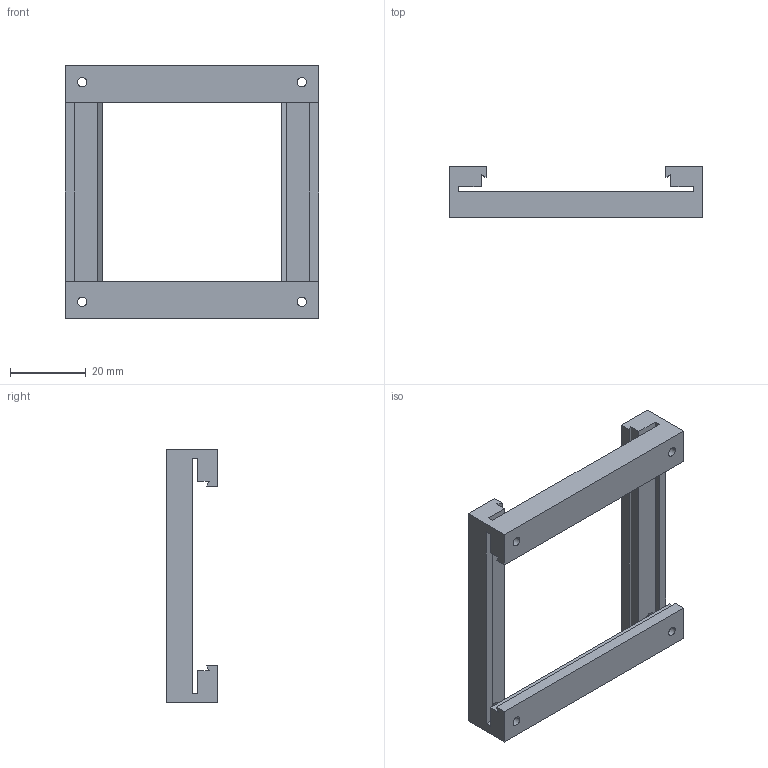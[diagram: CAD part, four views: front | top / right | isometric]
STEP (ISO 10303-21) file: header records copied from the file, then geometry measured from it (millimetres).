
FILE_DESCRIPTION (( 'STEP AP203' ), '1' );
FILE_NAME ('X-Y Verbindung dL50.STEP', '2002-07-08T12:48:19', ( '' ), ( '' ), 'SwSTEP 2.0', 'SolidWorks 2002127', '' );
FILE_SCHEMA (( 'CONFIG_CONTROL_DESIGN' ));
Length unit declared in the file: millimetre
Products named in the file (1): X-Y Verbindung dL50
Bounding box: 67 x 13.6 x 67 mm (x, y, z)
Volume: 13439.3 mm3; surface area: 9914.3 mm2
Topology: 1 solids, 1 shells, 60 faces, 164 edges, 108 vertices
Faces by surface type: plane 36, cylinder 24
Entity records: 2017 total; most frequent: DIRECTION 334, CARTESIAN_POINT 333, ORIENTED_EDGE 328, EDGE_CURVE 164, LINE 116, VECTOR 116, AXIS2_PLACEMENT_3D 109, VERTEX_POINT 108
